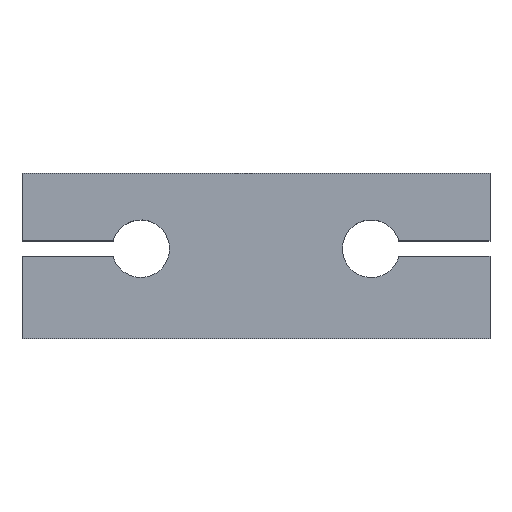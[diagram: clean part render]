
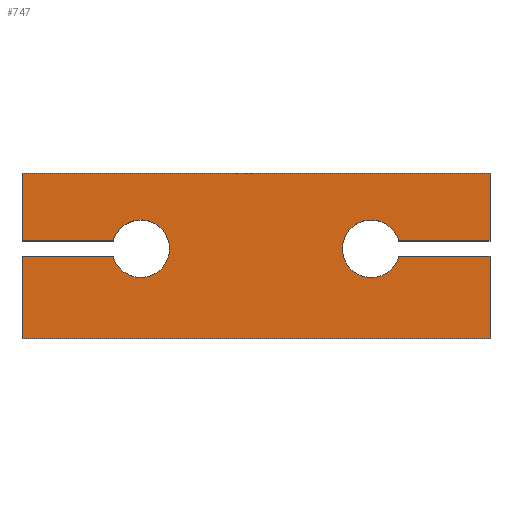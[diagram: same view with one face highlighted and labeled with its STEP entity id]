
A CAD part, top view. The second image highlights one B-rep face of the part: STEP entity #747.
In plain terms, the highlighted planar face has unit normal (0, 0, 1).
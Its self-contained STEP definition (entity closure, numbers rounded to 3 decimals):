
#6 = VERTEX_POINT ( 'NONE', #588 ) ;
#19 = CARTESIAN_POINT ( 'NONE',  ( 32.5, 2.075, 6. ) ) ;
#27 = EDGE_CURVE ( 'NONE', #718, #6, #517, .T. ) ;
#43 = DIRECTION ( 'NONE',  ( 1., 0., 0. ) ) ;
#68 = VERTEX_POINT ( 'NONE', #257 ) ;
#85 = ORIENTED_EDGE ( 'NONE', *, *, #846, .F. ) ;
#100 = EDGE_CURVE ( 'NONE', #718, #223, #585, .T. ) ;
#125 = CARTESIAN_POINT ( 'NONE',  ( -16., 1., 6. ) ) ;
#144 = DIRECTION ( 'NONE',  ( 0., 1., 0. ) ) ;
#148 = CARTESIAN_POINT ( 'NONE',  ( -32.5, 11.5, 6. ) ) ;
#149 = VERTEX_POINT ( 'NONE', #1023 ) ;
#152 = CARTESIAN_POINT ( 'NONE',  ( 32.5, 11.5, 6. ) ) ;
#153 = ORIENTED_EDGE ( 'NONE', *, *, #397, .F. ) ;
#164 = LINE ( 'NONE', #1035, #586 ) ;
#166 = EDGE_CURVE ( 'NONE', #68, #149, #332, .T. ) ;
#189 = CARTESIAN_POINT ( 'NONE',  ( -32.5, -11.5, 6. ) ) ;
#192 = EDGE_CURVE ( 'NONE', #223, #1073, #1010, .T. ) ;
#194 = VERTEX_POINT ( 'NONE', #917 ) ;
#218 = DIRECTION ( 'NONE',  ( 1., 0., 0. ) ) ;
#223 = VERTEX_POINT ( 'NONE', #189 ) ;
#230 = ORIENTED_EDGE ( 'NONE', *, *, #166, .T. ) ;
#257 = CARTESIAN_POINT ( 'NONE',  ( 32.5, 11.5, 6. ) ) ;
#263 = DIRECTION ( 'NONE',  ( 0., 1., 0. ) ) ;
#280 = ORIENTED_EDGE ( 'NONE', *, *, #192, .T. ) ;
#288 = CARTESIAN_POINT ( 'NONE',  ( 15., 2.075, 6. ) ) ;
#299 = ORIENTED_EDGE ( 'NONE', *, *, #483, .F. ) ;
#306 = CARTESIAN_POINT ( 'NONE',  ( 15., -0.075, 6. ) ) ;
#318 = DIRECTION ( 'NONE',  ( 0., 0., 1. ) ) ;
#327 = ORIENTED_EDGE ( 'NONE', *, *, #1099, .T. ) ;
#332 = LINE ( 'NONE', #148, #515 ) ;
#349 = DIRECTION ( 'NONE',  ( 0., 0., 1. ) ) ;
#365 = DIRECTION ( 'NONE',  ( -1., 0., 0. ) ) ;
#371 = LINE ( 'NONE', #288, #823 ) ;
#397 = EDGE_CURVE ( 'NONE', #194, #598, #928, .T. ) ;
#407 = VECTOR ( 'NONE', #897, 1000. ) ;
#416 = ORIENTED_EDGE ( 'NONE', *, *, #27, .F. ) ;
#429 = VERTEX_POINT ( 'NONE', #1068 ) ;
#441 = CARTESIAN_POINT ( 'NONE',  ( -32.5, -0.075, 6. ) ) ;
#451 = VERTEX_POINT ( 'NONE', #484 ) ;
#459 = EDGE_LOOP ( 'NONE', ( #861, #153, #299, #416, #692, #280, #550, #771, #1077, #85, #327, #230, #912 ) ) ;
#475 = EDGE_CURVE ( 'NONE', #149, #679, #811, .T. ) ;
#476 = CIRCLE ( 'NONE', #547, 4. ) ;
#483 = EDGE_CURVE ( 'NONE', #6, #194, #476, .T. ) ;
#484 = CARTESIAN_POINT ( 'NONE',  ( 19.853, 2.075, 6. ) ) ;
#511 = LINE ( 'NONE', #152, #1039 ) ;
#515 = VECTOR ( 'NONE', #744, 1000. ) ;
#517 = LINE ( 'NONE', #683, #855 ) ;
#547 = AXIS2_PLACEMENT_3D ( 'NONE', #1051, #318, #43 ) ;
#550 = ORIENTED_EDGE ( 'NONE', *, *, #784, .T. ) ;
#563 = AXIS2_PLACEMENT_3D ( 'NONE', #772, #757, #939 ) ;
#571 = DIRECTION ( 'NONE',  ( 0., 0., 1. ) ) ;
#585 = LINE ( 'NONE', #1013, #783 ) ;
#586 = VECTOR ( 'NONE', #365, 1000. ) ;
#588 = CARTESIAN_POINT ( 'NONE',  ( -19.853, -0.075, 6. ) ) ;
#592 = DIRECTION ( 'NONE',  ( 1., 0., 0. ) ) ;
#598 = VERTEX_POINT ( 'NONE', #895 ) ;
#601 = CARTESIAN_POINT ( 'NONE',  ( -32.5, -11.5, 6. ) ) ;
#607 = PLANE ( 'NONE',  #563 ) ;
#611 = CARTESIAN_POINT ( 'NONE',  ( 32.5, 11.5, 6. ) ) ;
#619 = CARTESIAN_POINT ( 'NONE',  ( 16., 1., 6. ) ) ;
#629 = DIRECTION ( 'NONE',  ( -1., 0., 0. ) ) ;
#652 = AXIS2_PLACEMENT_3D ( 'NONE', #125, #571, #657 ) ;
#656 = AXIS2_PLACEMENT_3D ( 'NONE', #619, #349, #1021 ) ;
#657 = DIRECTION ( 'NONE',  ( 1., 0., 0. ) ) ;
#667 = DIRECTION ( 'NONE',  ( 0., -1., 0. ) ) ;
#679 = VERTEX_POINT ( 'NONE', #751 ) ;
#683 = CARTESIAN_POINT ( 'NONE',  ( -32.5, -0.075, 6. ) ) ;
#692 = ORIENTED_EDGE ( 'NONE', *, *, #100, .T. ) ;
#706 = CIRCLE ( 'NONE', #656, 4. ) ;
#718 = VERTEX_POINT ( 'NONE', #441 ) ;
#744 = DIRECTION ( 'NONE',  ( -1., 0., 0. ) ) ;
#747 = ADVANCED_FACE ( 'NONE', ( #767 ), #607, .T. ) ;
#751 = CARTESIAN_POINT ( 'NONE',  ( -32.5, 2.075, 6. ) ) ;
#757 = DIRECTION ( 'NONE',  ( 0., 0., 1. ) ) ;
#767 = FACE_OUTER_BOUND ( 'NONE', #459, .T. ) ;
#771 = ORIENTED_EDGE ( 'NONE', *, *, #975, .F. ) ;
#772 = CARTESIAN_POINT ( 'NONE',  ( 0., 0., 6. ) ) ;
#773 = EDGE_CURVE ( 'NONE', #598, #679, #164, .T. ) ;
#775 = LINE ( 'NONE', #611, #1110 ) ;
#783 = VECTOR ( 'NONE', #667, 1000. ) ;
#784 = EDGE_CURVE ( 'NONE', #1073, #429, #775, .T. ) ;
#811 = LINE ( 'NONE', #884, #407 ) ;
#817 = EDGE_CURVE ( 'NONE', #451, #1078, #706, .T. ) ;
#819 = VECTOR ( 'NONE', #592, 1000. ) ;
#823 = VECTOR ( 'NONE', #629, 1000. ) ;
#834 = CARTESIAN_POINT ( 'NONE',  ( 19.853, -0.075, 6. ) ) ;
#846 = EDGE_CURVE ( 'NONE', #880, #451, #371, .T. ) ;
#855 = VECTOR ( 'NONE', #1024, 1000. ) ;
#861 = ORIENTED_EDGE ( 'NONE', *, *, #773, .F. ) ;
#880 = VERTEX_POINT ( 'NONE', #19 ) ;
#884 = CARTESIAN_POINT ( 'NONE',  ( -32.5, 11.5, 6. ) ) ;
#887 = LINE ( 'NONE', #306, #1009 ) ;
#895 = CARTESIAN_POINT ( 'NONE',  ( -19.853, 2.075, 6. ) ) ;
#897 = DIRECTION ( 'NONE',  ( 0., -1., 0. ) ) ;
#912 = ORIENTED_EDGE ( 'NONE', *, *, #475, .T. ) ;
#917 = CARTESIAN_POINT ( 'NONE',  ( -12., 1., 6. ) ) ;
#919 = CARTESIAN_POINT ( 'NONE',  ( 32.5, -11.5, 6. ) ) ;
#928 = CIRCLE ( 'NONE', #652, 4. ) ;
#939 = DIRECTION ( 'NONE',  ( 1., 0., 0. ) ) ;
#975 = EDGE_CURVE ( 'NONE', #1078, #429, #887, .T. ) ;
#1009 = VECTOR ( 'NONE', #218, 1000. ) ;
#1010 = LINE ( 'NONE', #601, #819 ) ;
#1013 = CARTESIAN_POINT ( 'NONE',  ( -32.5, 11.5, 6. ) ) ;
#1021 = DIRECTION ( 'NONE',  ( 1., 0., 0. ) ) ;
#1023 = CARTESIAN_POINT ( 'NONE',  ( -32.5, 11.5, 6. ) ) ;
#1024 = DIRECTION ( 'NONE',  ( 1., 0., 0. ) ) ;
#1035 = CARTESIAN_POINT ( 'NONE',  ( -32.5, 2.075, 6. ) ) ;
#1039 = VECTOR ( 'NONE', #144, 1000. ) ;
#1051 = CARTESIAN_POINT ( 'NONE',  ( -16., 1., 6. ) ) ;
#1068 = CARTESIAN_POINT ( 'NONE',  ( 32.5, -0.075, 6. ) ) ;
#1073 = VERTEX_POINT ( 'NONE', #919 ) ;
#1077 = ORIENTED_EDGE ( 'NONE', *, *, #817, .F. ) ;
#1078 = VERTEX_POINT ( 'NONE', #834 ) ;
#1099 = EDGE_CURVE ( 'NONE', #880, #68, #511, .T. ) ;
#1110 = VECTOR ( 'NONE', #263, 1000. ) ;
